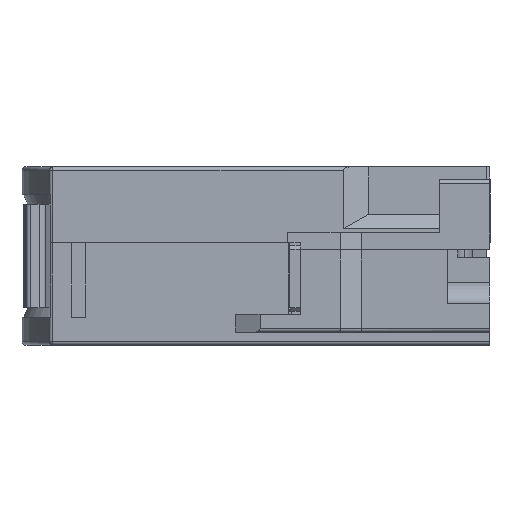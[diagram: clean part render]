
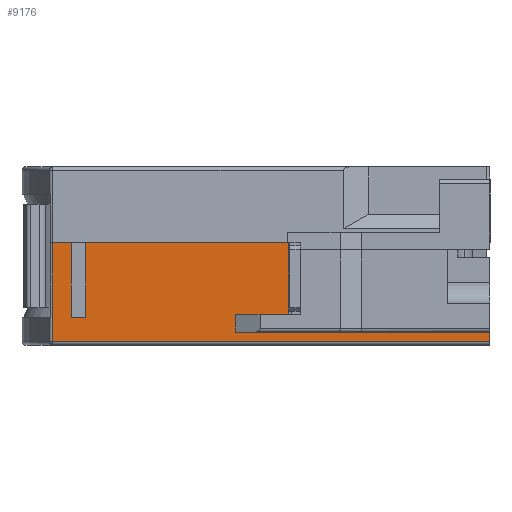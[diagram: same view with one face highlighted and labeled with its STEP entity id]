
A CAD part, left-side view. The second image highlights one B-rep face of the part: STEP entity #9176.
In plain terms, the highlighted planar face has unit normal (-1, 0, 0).
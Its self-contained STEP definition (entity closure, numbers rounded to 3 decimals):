
#305 = CARTESIAN_POINT ( 'NONE',  ( -32.403, 29.6, 14.3 ) ) ;
#440 = CARTESIAN_POINT ( 'NONE',  ( -32.403, 29.6, 4.3 ) ) ;
#453 = LINE ( 'NONE', #9842, #19641 ) ;
#536 = DIRECTION ( 'NONE',  ( 0., 0., 1. ) ) ;
#855 = CARTESIAN_POINT ( 'NONE',  ( -32.403, 50.5, 14.3 ) ) ;
#1751 = VECTOR ( 'NONE', #8991, 1000. ) ;
#2246 = LINE ( 'NONE', #305, #10567 ) ;
#2699 = VECTOR ( 'NONE', #6129, 1000. ) ;
#3303 = CARTESIAN_POINT ( 'NONE',  ( -32.403, 55.126, 0.5 ) ) ;
#3418 = CARTESIAN_POINT ( 'NONE',  ( -32.403, 22.1, 4.3 ) ) ;
#3469 = EDGE_CURVE ( 'NONE', #12490, #8224, #10177, .T. ) ;
#3657 = CARTESIAN_POINT ( 'NONE',  ( -32.403, 52.5, 3.9 ) ) ;
#3964 = EDGE_CURVE ( 'NONE', #18405, #10271, #10461, .T. ) ;
#3989 = CARTESIAN_POINT ( 'NONE',  ( -32.403, 55.126, 14.3 ) ) ;
#4256 = CARTESIAN_POINT ( 'NONE',  ( -32.403, 22.1, 14.3 ) ) ;
#4365 = CARTESIAN_POINT ( 'NONE',  ( -32.403, 29.6, 4.3 ) ) ;
#4453 = LINE ( 'NONE', #7332, #1751 ) ;
#5302 = CARTESIAN_POINT ( 'NONE',  ( -32.403, 55.126, 0.5 ) ) ;
#5537 = LINE ( 'NONE', #19919, #11421 ) ;
#5642 = DIRECTION ( 'NONE',  ( 0., 0., -1. ) ) ;
#5746 = DIRECTION ( 'NONE',  ( 1., 0., 0. ) ) ;
#5778 = EDGE_CURVE ( 'NONE', #6101, #6319, #4453, .T. ) ;
#5911 = DIRECTION ( 'NONE',  ( 0., -1., 0. ) ) ;
#5947 = VERTEX_POINT ( 'NONE', #3303 ) ;
#6101 = VERTEX_POINT ( 'NONE', #14571 ) ;
#6129 = DIRECTION ( 'NONE',  ( 0., 1., 0. ) ) ;
#6193 = EDGE_CURVE ( 'NONE', #8224, #14305, #15284, .T. ) ;
#6319 = VERTEX_POINT ( 'NONE', #9179 ) ;
#7053 = DIRECTION ( 'NONE',  ( 0., -1., 0. ) ) ;
#7186 = PLANE ( 'NONE',  #11749 ) ;
#7278 = ORIENTED_EDGE ( 'NONE', *, *, #9457, .F. ) ;
#7332 = CARTESIAN_POINT ( 'NONE',  ( -32.403, -6., 1.8 ) ) ;
#7337 = VECTOR ( 'NONE', #20036, 1000. ) ;
#7680 = EDGE_CURVE ( 'NONE', #11319, #5947, #12996, .T. ) ;
#8224 = VERTEX_POINT ( 'NONE', #3657 ) ;
#8379 = VERTEX_POINT ( 'NONE', #8613 ) ;
#8547 = EDGE_CURVE ( 'NONE', #11319, #14305, #453, .T. ) ;
#8613 = CARTESIAN_POINT ( 'NONE',  ( -32.403, 29.6, 1.8 ) ) ;
#8991 = DIRECTION ( 'NONE',  ( 0., 0., -1. ) ) ;
#9076 = CARTESIAN_POINT ( 'NONE',  ( -32.403, 52.5, -2.868 ) ) ;
#9125 = ORIENTED_EDGE ( 'NONE', *, *, #8547, .F. ) ;
#9145 = EDGE_CURVE ( 'NONE', #19426, #18405, #5537, .T. ) ;
#9176 = ADVANCED_FACE ( 'NONE', ( #18167 ), #7186, .F. ) ;
#9179 = CARTESIAN_POINT ( 'NONE',  ( -32.403, -6., 0.5 ) ) ;
#9457 = EDGE_CURVE ( 'NONE', #18057, #19426, #19499, .T. ) ;
#9584 = ORIENTED_EDGE ( 'NONE', *, *, #3964, .F. ) ;
#9842 = CARTESIAN_POINT ( 'NONE',  ( -32.403, 55.126, 14.3 ) ) ;
#9878 = DIRECTION ( 'NONE',  ( 0., -1., 0. ) ) ;
#10177 = LINE ( 'NONE', #13290, #19866 ) ;
#10271 = VERTEX_POINT ( 'NONE', #440 ) ;
#10461 = LINE ( 'NONE', #4365, #2699 ) ;
#10567 = VECTOR ( 'NONE', #19224, 1000. ) ;
#10878 = VECTOR ( 'NONE', #536, 1000. ) ;
#11218 = VECTOR ( 'NONE', #5911, 1000. ) ;
#11319 = VERTEX_POINT ( 'NONE', #18866 ) ;
#11380 = CARTESIAN_POINT ( 'NONE',  ( -32.403, 52.5, 14.3 ) ) ;
#11387 = CARTESIAN_POINT ( 'NONE',  ( -32.403, 50.5, -2.868 ) ) ;
#11421 = VECTOR ( 'NONE', #19816, 1000. ) ;
#11431 = ORIENTED_EDGE ( 'NONE', *, *, #15836, .F. ) ;
#11549 = DIRECTION ( 'NONE',  ( 0., 0., -1. ) ) ;
#11689 = LINE ( 'NONE', #11387, #10878 ) ;
#11749 = AXIS2_PLACEMENT_3D ( 'NONE', #3989, #5746, #5642 ) ;
#12341 = EDGE_LOOP ( 'NONE', ( #13107, #16056, #13740, #12847, #11431, #9584, #17889, #7278, #19604, #18105, #14065, #9125 ) ) ;
#12490 = VERTEX_POINT ( 'NONE', #19889 ) ;
#12847 = ORIENTED_EDGE ( 'NONE', *, *, #15101, .F. ) ;
#12855 = DIRECTION ( 'NONE',  ( 0., -1., 0. ) ) ;
#12996 = LINE ( 'NONE', #14447, #18645 ) ;
#13107 = ORIENTED_EDGE ( 'NONE', *, *, #7680, .T. ) ;
#13290 = CARTESIAN_POINT ( 'NONE',  ( -32.403, 50.5, 3.9 ) ) ;
#13740 = ORIENTED_EDGE ( 'NONE', *, *, #5778, .F. ) ;
#13834 = VECTOR ( 'NONE', #7053, 1000. ) ;
#13874 = LINE ( 'NONE', #20076, #11218 ) ;
#14065 = ORIENTED_EDGE ( 'NONE', *, *, #6193, .T. ) ;
#14305 = VERTEX_POINT ( 'NONE', #11380 ) ;
#14447 = CARTESIAN_POINT ( 'NONE',  ( -32.403, 55.126, 14.3 ) ) ;
#14571 = CARTESIAN_POINT ( 'NONE',  ( -32.403, -6., 1.8 ) ) ;
#15101 = EDGE_CURVE ( 'NONE', #8379, #6101, #13874, .T. ) ;
#15284 = LINE ( 'NONE', #9076, #7337 ) ;
#15836 = EDGE_CURVE ( 'NONE', #10271, #8379, #2246, .T. ) ;
#16056 = ORIENTED_EDGE ( 'NONE', *, *, #16280, .T. ) ;
#16280 = EDGE_CURVE ( 'NONE', #5947, #6319, #18127, .T. ) ;
#16695 = EDGE_CURVE ( 'NONE', #12490, #18057, #11689, .T. ) ;
#17117 = VECTOR ( 'NONE', #9878, 1000. ) ;
#17889 = ORIENTED_EDGE ( 'NONE', *, *, #9145, .F. ) ;
#18057 = VERTEX_POINT ( 'NONE', #855 ) ;
#18105 = ORIENTED_EDGE ( 'NONE', *, *, #3469, .T. ) ;
#18127 = LINE ( 'NONE', #5302, #13834 ) ;
#18167 = FACE_OUTER_BOUND ( 'NONE', #12341, .T. ) ;
#18405 = VERTEX_POINT ( 'NONE', #3418 ) ;
#18645 = VECTOR ( 'NONE', #11549, 1000. ) ;
#18866 = CARTESIAN_POINT ( 'NONE',  ( -32.403, 55.126, 14.3 ) ) ;
#19224 = DIRECTION ( 'NONE',  ( 0., 0., -1. ) ) ;
#19302 = CARTESIAN_POINT ( 'NONE',  ( -32.403, 55.126, 14.3 ) ) ;
#19426 = VERTEX_POINT ( 'NONE', #4256 ) ;
#19497 = DIRECTION ( 'NONE',  ( 0., 1., 0. ) ) ;
#19499 = LINE ( 'NONE', #19302, #17117 ) ;
#19604 = ORIENTED_EDGE ( 'NONE', *, *, #16695, .F. ) ;
#19641 = VECTOR ( 'NONE', #12855, 1000. ) ;
#19816 = DIRECTION ( 'NONE',  ( 0., 0., -1. ) ) ;
#19866 = VECTOR ( 'NONE', #19497, 1000. ) ;
#19889 = CARTESIAN_POINT ( 'NONE',  ( -32.403, 50.5, 3.9 ) ) ;
#19919 = CARTESIAN_POINT ( 'NONE',  ( -32.403, 22.1, 46.953 ) ) ;
#20036 = DIRECTION ( 'NONE',  ( 0., 0., 1. ) ) ;
#20076 = CARTESIAN_POINT ( 'NONE',  ( -32.403, 29.6, 1.8 ) ) ;
